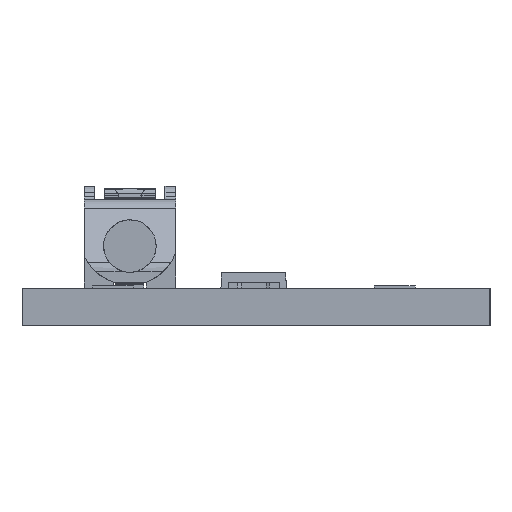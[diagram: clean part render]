
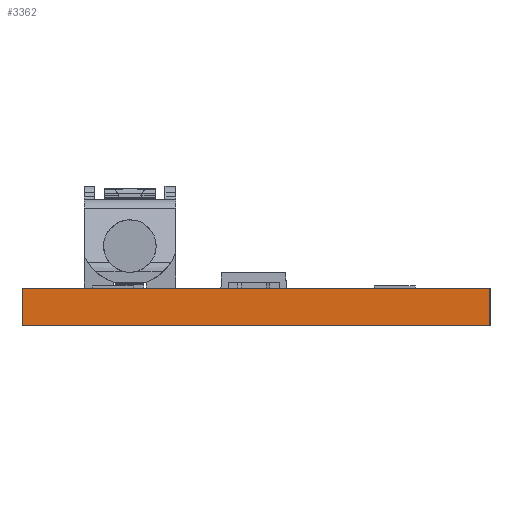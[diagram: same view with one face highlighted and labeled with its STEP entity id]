
A CAD part, left-side view. The second image highlights one B-rep face of the part: STEP entity #3362.
In plain terms, the highlighted planar face has unit normal (-1, 0, 0).
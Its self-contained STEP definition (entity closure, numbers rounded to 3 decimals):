
#149 = ORIENTED_EDGE ( 'NONE', *, *, #8943, .F. ) ;
#610 = EDGE_CURVE ( 'NONE', #3679, #7137, #4574, .T. ) ;
#658 = DIRECTION ( 'NONE',  ( 0., 0., -1. ) ) ;
#1379 = CARTESIAN_POINT ( 'NONE',  ( 0., 0., 1.6 ) ) ;
#1604 = CARTESIAN_POINT ( 'NONE',  ( 0., 20., 0. ) ) ;
#1617 = CARTESIAN_POINT ( 'NONE',  ( 0., 0., 1.6 ) ) ;
#2231 = ORIENTED_EDGE ( 'NONE', *, *, #3124, .T. ) ;
#2272 = VERTEX_POINT ( 'NONE', #8105 ) ;
#2577 = VECTOR ( 'NONE', #7832, 1000. ) ;
#2580 = VECTOR ( 'NONE', #658, 1000. ) ;
#3124 = EDGE_CURVE ( 'NONE', #7972, #3679, #8156, .T. ) ;
#3362 = ADVANCED_FACE ( 'NONE', ( #8482 ), #8097, .F. ) ;
#3679 = VERTEX_POINT ( 'NONE', #1604 ) ;
#4146 = CARTESIAN_POINT ( 'NONE',  ( 0., 20., 1.6 ) ) ;
#4186 = VECTOR ( 'NONE', #7553, 1000. ) ;
#4293 = DIRECTION ( 'NONE',  ( 1., 0., 0. ) ) ;
#4574 = LINE ( 'NONE', #7242, #2577 ) ;
#6100 = LINE ( 'NONE', #1617, #8078 ) ;
#6327 = ORIENTED_EDGE ( 'NONE', *, *, #8352, .F. ) ;
#6558 = LINE ( 'NONE', #1379, #2580 ) ;
#6805 = CARTESIAN_POINT ( 'NONE',  ( 0., 0., 0. ) ) ;
#6842 = DIRECTION ( 'NONE',  ( 0., -1., 0. ) ) ;
#7137 = VERTEX_POINT ( 'NONE', #6805 ) ;
#7242 = CARTESIAN_POINT ( 'NONE',  ( 0., 0., 0. ) ) ;
#7259 = EDGE_LOOP ( 'NONE', ( #9430, #149, #6327, #2231 ) ) ;
#7553 = DIRECTION ( 'NONE',  ( 0., 0., -1. ) ) ;
#7832 = DIRECTION ( 'NONE',  ( 0., -1., 0. ) ) ;
#7849 = AXIS2_PLACEMENT_3D ( 'NONE', #8741, #4293, #9487 ) ;
#7972 = VERTEX_POINT ( 'NONE', #8720 ) ;
#8078 = VECTOR ( 'NONE', #6842, 1000. ) ;
#8097 = PLANE ( 'NONE',  #7849 ) ;
#8105 = CARTESIAN_POINT ( 'NONE',  ( 0., 0., 1.6 ) ) ;
#8156 = LINE ( 'NONE', #4146, #4186 ) ;
#8352 = EDGE_CURVE ( 'NONE', #7972, #2272, #6100, .T. ) ;
#8482 = FACE_OUTER_BOUND ( 'NONE', #7259, .T. ) ;
#8720 = CARTESIAN_POINT ( 'NONE',  ( 0., 20., 1.6 ) ) ;
#8741 = CARTESIAN_POINT ( 'NONE',  ( 0., 0., 1.6 ) ) ;
#8943 = EDGE_CURVE ( 'NONE', #2272, #7137, #6558, .T. ) ;
#9430 = ORIENTED_EDGE ( 'NONE', *, *, #610, .T. ) ;
#9487 = DIRECTION ( 'NONE',  ( 0., 0., -1. ) ) ;
